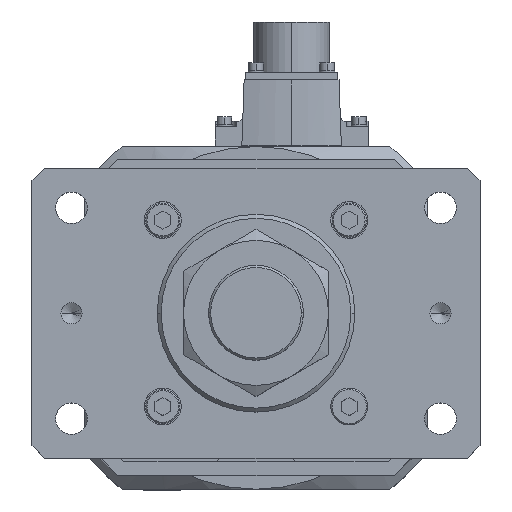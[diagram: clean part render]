
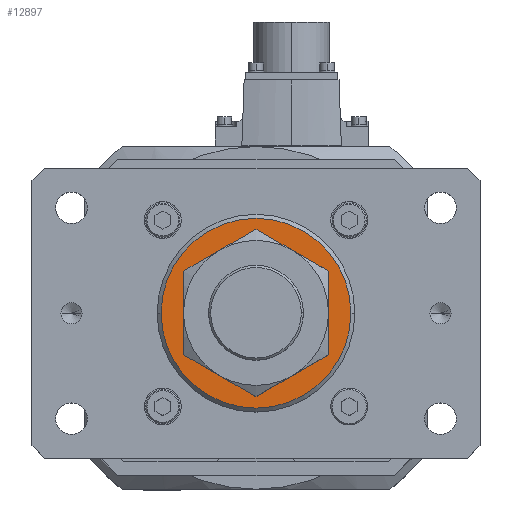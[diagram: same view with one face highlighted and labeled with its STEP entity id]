
A CAD part, top view. The second image highlights one B-rep face of the part: STEP entity #12897.
In plain terms, the highlighted planar face has unit normal (0, 0, 1).
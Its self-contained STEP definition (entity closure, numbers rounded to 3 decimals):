
#156 = CIRCLE ( 'NONE', #828, 36. ) ;
#828 = AXIS2_PLACEMENT_3D ( 'NONE', #13939, #33855, #13811 ) ;
#1509 = DIRECTION ( 'NONE',  ( 0., 0., 1. ) ) ;
#1643 = PLANE ( 'NONE',  #33827 ) ;
#2189 = CARTESIAN_POINT ( 'NONE',  ( 0., 0., 746. ) ) ;
#3133 = AXIS2_PLACEMENT_3D ( 'NONE', #15764, #27496, #30017 ) ;
#5013 = DIRECTION ( 'NONE',  ( 1., 0., 0. ) ) ;
#5139 = CIRCLE ( 'NONE', #3133, 23. ) ;
#5994 = ORIENTED_EDGE ( 'NONE', *, *, #21239, .T. ) ;
#6141 = ORIENTED_EDGE ( 'NONE', *, *, #34976, .T. ) ;
#8707 = CARTESIAN_POINT ( 'NONE',  ( 23., 0., 746. ) ) ;
#9196 = CARTESIAN_POINT ( 'NONE',  ( 0., 0., 746. ) ) ;
#10517 = DIRECTION ( 'NONE',  ( 0., 0., -1. ) ) ;
#10736 = ORIENTED_EDGE ( 'NONE', *, *, #18995, .T. ) ;
#11205 = FACE_BOUND ( 'NONE', #27103, .T. ) ;
#11799 = ORIENTED_EDGE ( 'NONE', *, *, #12592, .T. ) ;
#11812 = EDGE_LOOP ( 'NONE', ( #11799, #6141 ) ) ;
#11962 = CARTESIAN_POINT ( 'NONE',  ( 36., 0., 746. ) ) ;
#12592 = EDGE_CURVE ( 'NONE', #33880, #28435, #156, .T. ) ;
#12897 = ADVANCED_FACE ( 'NONE', ( #11205, #27740 ), #1643, .T. ) ;
#12908 = DIRECTION ( 'NONE',  ( 1., 0., 0. ) ) ;
#13811 = DIRECTION ( 'NONE',  ( 1., 0., 0. ) ) ;
#13939 = CARTESIAN_POINT ( 'NONE',  ( 0., 0., 746. ) ) ;
#14924 = CARTESIAN_POINT ( 'NONE',  ( -23., 0., 746. ) ) ;
#15762 = AXIS2_PLACEMENT_3D ( 'NONE', #2189, #22106, #5013 ) ;
#15764 = CARTESIAN_POINT ( 'NONE',  ( 0., 0., 746. ) ) ;
#18995 = EDGE_CURVE ( 'NONE', #31602, #26326, #5139, .T. ) ;
#20133 = AXIS2_PLACEMENT_3D ( 'NONE', #25111, #10517, #33663 ) ;
#21239 = EDGE_CURVE ( 'NONE', #26326, #31602, #27408, .T. ) ;
#22106 = DIRECTION ( 'NONE',  ( 0., 0., 1. ) ) ;
#23205 = CIRCLE ( 'NONE', #15762, 36. ) ;
#25111 = CARTESIAN_POINT ( 'NONE',  ( 0., 0., 746. ) ) ;
#26326 = VERTEX_POINT ( 'NONE', #14924 ) ;
#27103 = EDGE_LOOP ( 'NONE', ( #10736, #5994 ) ) ;
#27408 = CIRCLE ( 'NONE', #20133, 23. ) ;
#27496 = DIRECTION ( 'NONE',  ( 0., 0., -1. ) ) ;
#27740 = FACE_OUTER_BOUND ( 'NONE', #11812, .T. ) ;
#28186 = CARTESIAN_POINT ( 'NONE',  ( -36., 0., 746. ) ) ;
#28435 = VERTEX_POINT ( 'NONE', #11962 ) ;
#30017 = DIRECTION ( 'NONE',  ( 1., 0., 0. ) ) ;
#31602 = VERTEX_POINT ( 'NONE', #8707 ) ;
#33663 = DIRECTION ( 'NONE',  ( 1., 0., 0. ) ) ;
#33827 = AXIS2_PLACEMENT_3D ( 'NONE', #9196, #1509, #12908 ) ;
#33855 = DIRECTION ( 'NONE',  ( 0., 0., 1. ) ) ;
#33880 = VERTEX_POINT ( 'NONE', #28186 ) ;
#34976 = EDGE_CURVE ( 'NONE', #28435, #33880, #23205, .T. ) ;
